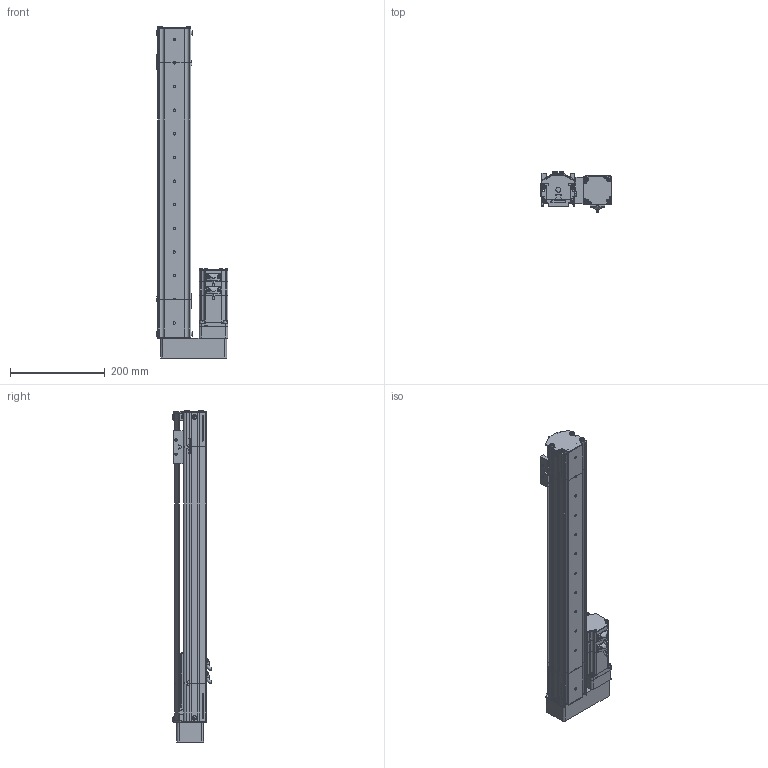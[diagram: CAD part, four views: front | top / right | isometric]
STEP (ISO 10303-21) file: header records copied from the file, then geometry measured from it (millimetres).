
FILE_DESCRIPTION (( 'STEP AP214' ), '1' );
FILE_NAME ('S07 TS BR S500.STEP', '2010-06-29T11:11:14', ( 'Conseil Régional Haute-Normandie' ), ( 'Conseil Régional Haute-Normandie' ), 'SwSTEP 2.0', 'SolidWorks 2010', '' );
FILE_SCHEMA (( 'AUTOMOTIVE_DESIGN' ));
Length unit declared in the file: millimetre
Products named in the file (35): chariot_Default; Arbre+rail tail78; vis M5 L16_Default; couvercle S07 (78); plaque de bout_Default; T皻e d''axe bas_Default; S07 BR(124)_Default; T皻e d''axe Haut 2_Default; guide; couvercle moteur S07 BR(124); vis M5 L5_Default; arbre S07 moteur; arbre + rail Course 500 ; plaque de bout BR_Default; Plaque racord_Default; GMB 60 90 310_Default; P1_Default; P2 90A_Default; P3 90A_Default; P4_Default; Axe 60BLDC_Default; Conecteur 60BLDC_Default; Conecteur2 60BLDC_Default; VisM3_Default; couvercle S07 course 500 ; Vis M5 L16-2_Default; Course 500_Default; S07 tail (78)_Default; Chariot; corp moteur BR(124)_Default; corp couvert coupé_Default; vis M5 L12_Default; rail S07 moteur; Corp S07 course 500_Default; S07 TS BR S500
Assembly tree (61 placements, depth 4):
  S07 TS BR S500
    S07 tail (78)_Default
      T皻e d''axe bas_Default
      vis M5 L12_Default  x8
      vis M5 L16_Default  x2
      plaque de bout_Default
      Arbre+rail tail78
      T皻e d''axe Haut 2_Default
      corp couvert coupé_Default
      couvercle S07 (78)
    chariot_Default
      vis M5 L12_Default  x2
      guide
      Chariot
    S07 BR(124)_Default
      corp moteur BR(124)_Default
      Vis M5 L16-2_Default  x4
      vis M5 L12_Default  x2
      vis M5 L5_Default  x2
      Plaque racord_Default
      plaque de bout BR_Default
      couvercle moteur S07 BR(124)
      arbre S07 moteur
      GMB 60 90 310_Default
        VisM3_Default  x12
        P1_Default
        Axe 60BLDC_Default
        P4_Default
        Conecteur 60BLDC_Default
        P2 90A_Default
        Conecteur2 60BLDC_Default
        P3 90A_Default
      rail S07 moteur
    Course 500_Default
      arbre + rail Course 500 
      couvercle S07 course 500 
      Corp S07 course 500_Default
Bounding box: 152.2 x 83.7 x 702 mm (x, y, z)
Volume: 1880854.5 mm3; surface area: 632255.9 mm2
Topology: 82 solids, 82 shells, 3350 faces, 8448 edges, 5487 vertices
Faces by surface type: plane 1899, bspline 677, cylinder 589, torus 96, cone 89
Entity records: 158156 total; most frequent: CARTESIAN_POINT 73565, ORIENTED_EDGE 14152, DIRECTION 10887, EDGE_CURVE 7076, VERTEX_POINT 4677, LINE 4653, VECTOR 4653, AXIS2_PLACEMENT_3D 3117
